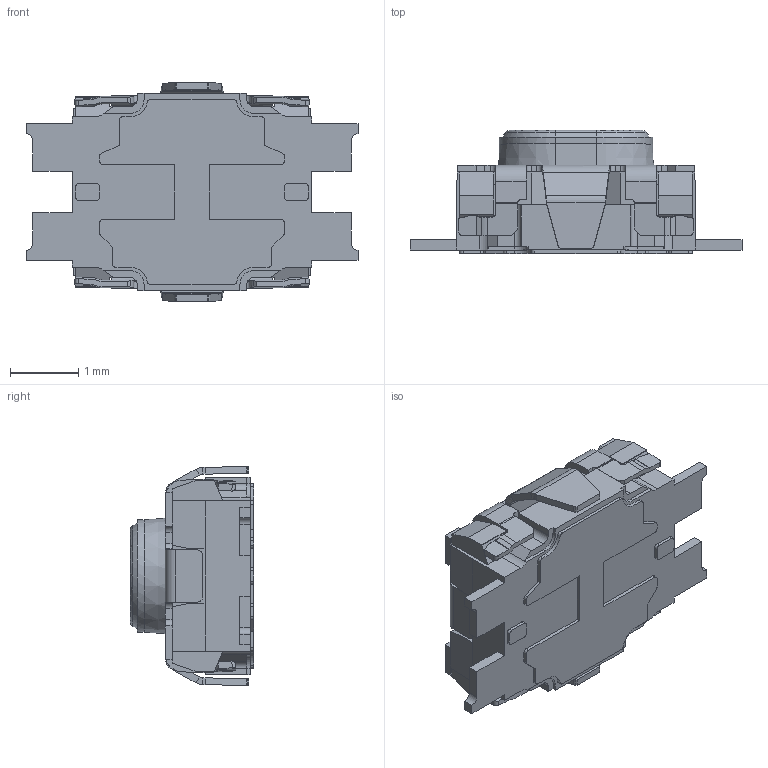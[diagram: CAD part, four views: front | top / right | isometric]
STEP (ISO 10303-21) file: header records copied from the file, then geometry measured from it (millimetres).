
FILE_DESCRIPTION (( 'STEP AP214' ), '1' );
FILE_NAME ('SKTHAC_h1.80.STEP', '2017-12-01T09:27:28', ( 'user' ), ( 'Hewlett-Packard Company' ), 'SwSTEP 2.0', 'SolidWorks 2014', '' );
FILE_SCHEMA (( 'AUTOMOTIVE_DESIGN' ));
Length unit declared in the file: millimetre
Products named in the file (1): SKTHAC_h1.80
Bounding box: 4.85 x 1.8 x 3.2 mm (x, y, z)
Volume: 12.9 mm3; surface area: 58.4 mm2
Topology: 1 solids, 1 shells, 546 faces, 1561 edges, 1010 vertices
Faces by surface type: plane 343, cylinder 161, bspline 34, cone 8
Entity records: 24469 total; most frequent: CARTESIAN_POINT 4934, ORIENTED_EDGE 3122, DIRECTION 2341, EDGE_CURVE 1561, VECTOR 1111, LINE 1111, VERTEX_POINT 1010, AXIS2_PLACEMENT_3D 615
